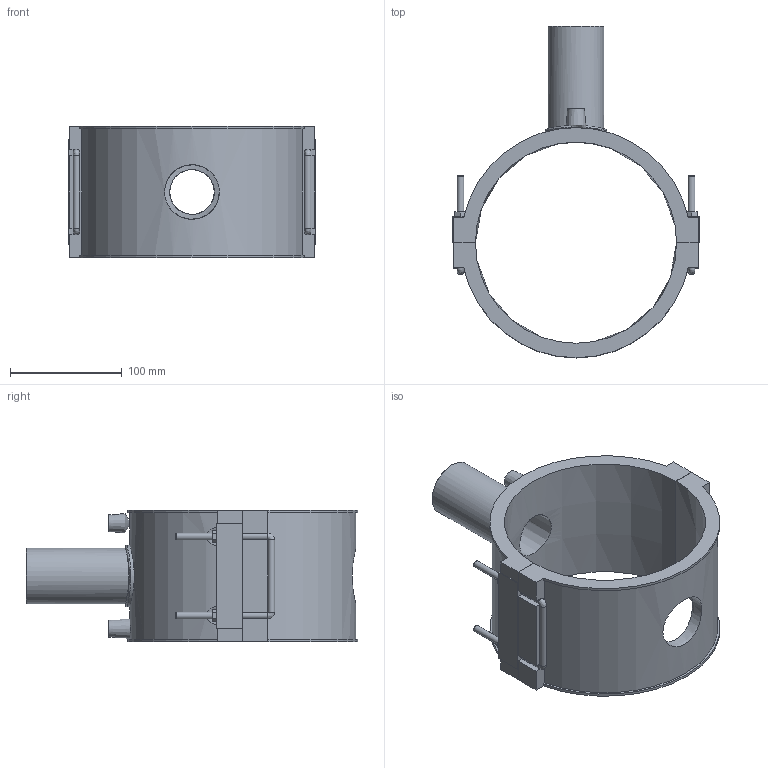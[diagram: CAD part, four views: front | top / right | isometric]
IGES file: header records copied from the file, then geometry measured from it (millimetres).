
Global section: file name: 495804180050.ipt; native system: Autodesk Inventor 2015; preprocessor: unknown; author: KIM; date: 20180426.120856; units: millimetre
Bounding box: 221 x 297.02 x 118 mm (x, y, z)
Volume: 936002.6 mm3; surface area: 209155.8 mm2
Topology: 2 solids, 2 shells, 133 faces, 340 edges, 214 vertices
Faces by surface type: plane 85, cylinder 22, revolution 10, bspline 9, cone 7
Full cylindrical faces by diameter (mm): 4 x2, 6 x10, 50 x1, 55 x1
